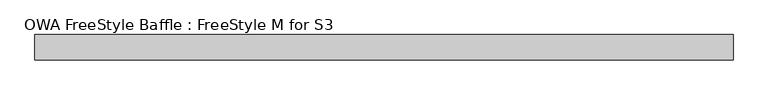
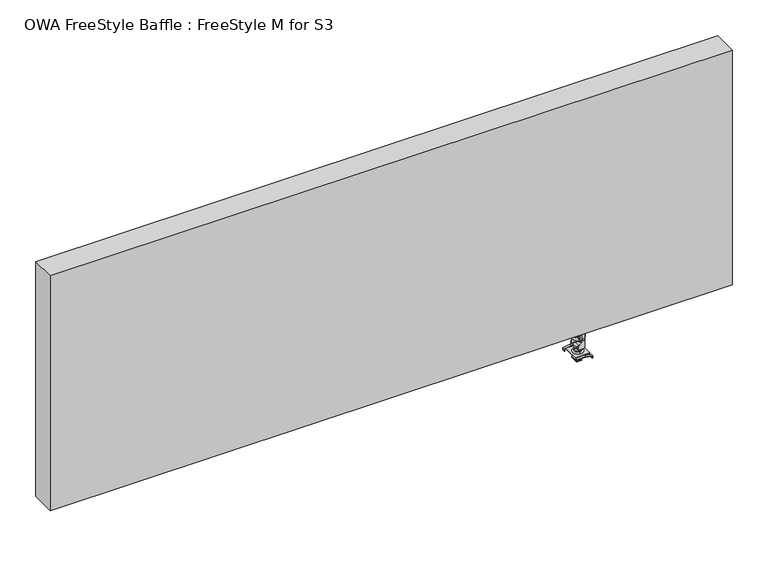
"""IFC4 building model written with IfcOpenShell, lengths in millimetres: proxy geometry, OWA FreeStyle Baffle : FreeStyle M for S3."""

import ifcopenshell
import ifcopenshell.guid

model = None  # the IFC model being written
_history = None  # IfcOwnerHistory: only IFC2X3 demands one
_inside = {}  # id of a spatial element -> (the spatial element, [elements in it])
_under = {}  # id of a project, library or spatial element -> (it, [spatial elements below it])
_declared = {}  # id of a project -> (the project, [libraries it declares])
_typed = {}  # id of a type object -> (the type object, [elements of that type])
_made_of = {}  # id of a material, layer set ... -> (it, [elements and type objects made of it])


def new_model(schema):
    """Start an empty IFC model of exactly this schema.

    Asked for "IFC4X3", IfcOpenShell would pick the latest addendum, in which some entities
    have other attributes; the version numbers below select the first issue.
    IFC2X3 requires an IfcOwnerHistory on every rooted entity: one is made here for all.
    """
    global model, _history
    if schema == "IFC4X3":
        model = ifcopenshell.file(schema_version=(4, 3, 0, 0))
    else:
        model = ifcopenshell.file(schema=schema)
    _inside.clear()
    _under.clear()
    _declared.clear()
    _typed.clear()
    _made_of.clear()
    _history = None
    if model.schema == "IFC2X3":
        org = make("IfcOrganization", Name="unknown")
        user = make(
            "IfcPersonAndOrganization",
            ThePerson=make("IfcPerson", FamilyName="unknown"),
            TheOrganization=org,
        )
        app = make(
            "IfcApplication",
            ApplicationDeveloper=org,
            Version="unknown",
            ApplicationFullName="unknown",
            ApplicationIdentifier="unknown",
        )
        _history = make(
            "IfcOwnerHistory",
            OwningUser=user,
            OwningApplication=app,
            ChangeAction="ADDED",
            CreationDate=0,
        )
    return model


def make(cls, **values):
    """One entity of the class cls with the attributes given. An attribute that is None is left unset."""
    return model.create_entity(
        cls, **{name: value for name, value in values.items() if value is not None}
    )


def rooted(cls, **values):
    """An entity with a GlobalId (a new one), such as an element, a storey or a relation."""
    return make(cls, GlobalId=ifcopenshell.guid.new(), OwnerHistory=_history, **values)


def si_unit(unit_type, name, prefix=None):
    """IfcSIUnit, for example si_unit("LENGTHUNIT", "METRE", prefix="MILLI")."""
    return make("IfcSIUnit", UnitType=unit_type, Prefix=prefix, Name=name)


def assignment(units):
    """IfcUnitAssignment: the units of a project."""
    return None if units is None else make("IfcUnitAssignment", Units=units)


def point(xyz):
    """IfcCartesianPoint."""
    return None if xyz is None else make("IfcCartesianPoint", Coordinates=xyz)


def direction(xyz):
    """IfcDirection."""
    return None if xyz is None else make("IfcDirection", DirectionRatios=xyz)


def frame(location, z_axis=None, x_axis=None):
    """IfcAxis2Placement3D, a coordinate frame: its origin and axes. An axis left out is left unset."""
    return make(
        "IfcAxis2Placement3D",
        Location=point(location),
        Axis=direction(z_axis),
        RefDirection=direction(x_axis),
    )


def frame_2d(location, x_axis=None):
    """IfcAxis2Placement2D, a coordinate frame in the plane: its origin and x axis."""
    return make(
        "IfcAxis2Placement2D", Location=point(location), RefDirection=direction(x_axis)
    )


def origin():
    """The frame at (0, 0, 0) with its axes left unset."""
    return frame((0.0, 0.0, 0.0))


def place(relative_to, where):
    """IfcLocalPlacement: puts the frame where relative to a parent placement (None: the world)."""
    return make(
        "IfcLocalPlacement", PlacementRelTo=relative_to, RelativePlacement=where
    )


def context(
    kind, dimensions, precision=None, world=None, true_north=None, identifier=None
):
    """IfcGeometricRepresentationContext, for example the 3D "Model" context."""
    return make(
        "IfcGeometricRepresentationContext",
        ContextIdentifier=identifier,
        ContextType=kind,
        CoordinateSpaceDimension=dimensions,
        Precision=precision,
        WorldCoordinateSystem=world,
        TrueNorth=true_north,
    )


def project(units=None, contexts=None):
    """IfcProject with its units and contexts."""
    return rooted(
        "IfcProject",
        Name="project",
        RepresentationContexts=contexts,
        UnitsInContext=assignment(units),
    )


def spatial(cls, under=None, at=None, **own):
    """A site, building, storey or space (cls), placed at a placement, below another one or the project."""
    s = rooted(cls, ObjectPlacement=at, **own)
    if under is not None:
        _under.setdefault(under.id(), (under, []))[1].append(s)
    return s


def polyline(points):
    """IfcPolyline through the points."""
    return make("IfcPolyline", Points=[point(p) for p in points])


def circle_curve(where, radius):
    """IfcCircle in the frame where."""
    return make("IfcCircle", Position=where, Radius=radius)


def trimmed(basis, trim1, trim2, sense, master):
    """IfcTrimmedCurve: the piece of a basis curve between two trims."""
    return make(
        "IfcTrimmedCurve",
        BasisCurve=basis,
        Trim1=trim1,
        Trim2=trim2,
        SenseAgreement=sense,
        MasterRepresentation=master,
    )


def segment(curve, same_sense, transition):
    """IfcCompositeCurveSegment."""
    return make(
        "IfcCompositeCurveSegment",
        Transition=transition,
        SameSense=same_sense,
        ParentCurve=curve,
    )


def composite_curve(segments, self_intersect=None):
    """IfcCompositeCurve: segments joined end to end."""
    return make("IfcCompositeCurve", Segments=segments, SelfIntersect=self_intersect)


def outline(outer, holes=None, kind="AREA"):
    """IfcArbitraryClosedProfileDef: a profile drawn as a closed curve; with holes, ...WithVoids."""
    if holes is None:
        return make("IfcArbitraryClosedProfileDef", ProfileType=kind, OuterCurve=outer)
    return make(
        "IfcArbitraryProfileDefWithVoids",
        ProfileType=kind,
        OuterCurve=outer,
        InnerCurves=holes,
    )


def extrude(swept, where, along, depth):
    """IfcExtrudedAreaSolid: the profile swept, set in the frame where, extruded along a direction by depth."""
    return make(
        "IfcExtrudedAreaSolid",
        SweptArea=swept,
        Position=where,
        ExtrudedDirection=direction(along),
        Depth=depth,
    )


def shape(context_of_items, identifier, shape_type, items):
    """IfcShapeRepresentation: the items that make up one representation, for example the "Body"."""
    return make(
        "IfcShapeRepresentation",
        ContextOfItems=context_of_items,
        RepresentationIdentifier=identifier,
        RepresentationType=shape_type,
        Items=items,
    )


def source(mapping_origin, context_of_items, identifier, shape_type, items):
    """IfcRepresentationMap: a shape defined once, which mapped items show again and again."""
    return make(
        "IfcRepresentationMap",
        MappingOrigin=mapping_origin,
        MappedRepresentation=shape(context_of_items, identifier, shape_type, items),
    )


def transform(
    local_origin,
    x_axis=None,
    y_axis=None,
    z_axis=None,
    scale=None,
    scale2=None,
    scale3=None,
    uniform=True,
):
    """IfcCartesianTransformationOperator3D, or its non-uniform kind. x_axis, y_axis, z_axis: its Axis1, 2, 3."""
    if uniform:
        return make(
            "IfcCartesianTransformationOperator3D",
            Axis1=direction(x_axis),
            Axis2=direction(y_axis),
            LocalOrigin=point(local_origin),
            Scale=scale,
            Axis3=direction(z_axis),
        )
    return make(
        "IfcCartesianTransformationOperator3DnonUniform",
        Axis1=direction(x_axis),
        Axis2=direction(y_axis),
        LocalOrigin=point(local_origin),
        Scale=scale,
        Axis3=direction(z_axis),
        Scale2=scale2,
        Scale3=scale3,
    )


def mapped(mapping_source, mapping_target):
    """IfcMappedItem: shows the shape of a source again, moved by a transform."""
    return make(
        "IfcMappedItem", MappingSource=mapping_source, MappingTarget=mapping_target
    )


def made_of(thing, what):
    """Note that an element or type object is made of a material, layer set ...; save() writes the relation."""
    if what is not None:
        _made_of.setdefault(what.id(), (what, []))[1].append(thing)
    return thing


def element(
    cls,
    number,
    at=None,
    inside=None,
    cuts=None,
    type_object=None,
    material=None,
    context=None,
    identifier="Body",
    shape_type=None,
    held_by="IfcProductDefinitionShape",
    body=None,
    shapes=None,
    **own,
):
    """One element of the class cls, such as IfcWall. Its Tag is "e" and its number.

    at: its placement. inside: the storey or other place that contains it. cuts: it is an
    opening in that element (IfcRelVoidsElement). A single representation is given by context,
    identifier, shape_type and body (its items); several are given by shapes. held_by: the class
    of the entity that holds the representations. save() writes the other relations.
    """
    e = rooted(cls, Tag="e%d" % number, ObjectPlacement=at, **own)
    if body is not None:
        shapes = [shape(context, identifier, shape_type, body)]
    if shapes is not None:
        e.Representation = make(held_by, Representations=shapes)
    if inside is not None:
        _inside.setdefault(inside.id(), (inside, []))[1].append(e)
    if cuts is not None:
        rooted(
            "IfcRelVoidsElement", RelatingBuildingElement=cuts, RelatedOpeningElement=e
        )
    if type_object is not None:
        _typed.setdefault(type_object.id(), (type_object, []))[1].append(e)
    return made_of(e, material)


def aggregate(whole, parts):
    """IfcRelAggregates: a whole, such as a stair, and the parts it consists of."""
    return rooted("IfcRelAggregates", RelatingObject=whole, RelatedObjects=parts)


def save(model, path):
    """Write the relations noted so far, then the file.

    IfcRelAggregates (storeys below a building ...), IfcRelContainedInSpatialStructure (elements
    in a storey), IfcRelDefinesByType, IfcRelAssociatesMaterial and IfcRelDeclares: one each for
    every whole, place, type object, material and project.
    """
    for whole, parts in _under.values():
        aggregate(whole, parts)
    for where, things in _inside.values():
        rooted(
            "IfcRelContainedInSpatialStructure",
            RelatedElements=things,
            RelatingStructure=where,
        )
    for kind, things in _typed.values():
        rooted("IfcRelDefinesByType", RelatedObjects=things, RelatingType=kind)
    for what, things in _made_of.values():
        rooted("IfcRelAssociatesMaterial", RelatedObjects=things, RelatingMaterial=what)
    for by, libraries in _declared.values():
        rooted("IfcRelDeclares", RelatingContext=by, RelatedDefinitions=libraries)
    model.write(path)


def plane_surface(at):
    """IfcPlane: the flat surface through the origin of the frame at, square to its z axis."""
    return make("IfcPlane", Position=at)


def cylinder_surface(at, radius):
    """IfcCylindricalSurface: all points at the distance radius from the z axis of the frame at."""
    return make("IfcCylindricalSurface", Position=at, Radius=radius)


def revolved_surface(curve, axis_point, axis_direction):
    """IfcSurfaceOfRevolution: the curve turned about the line through axis_point along axis_direction."""
    return make(
        "IfcSurfaceOfRevolution",
        SweptCurve=make("IfcArbitraryOpenProfileDef", ProfileType="CURVE", Curve=curve),
        AxisPosition=make("IfcAxis1Placement", Location=point(axis_point), Axis=direction(axis_direction)),
    )


def advanced_brep(points, edges, surfaces, faces):
    """IfcAdvancedBrep: a solid bounded by faces that lie on surfaces and meet in shared edges.

    An edge is (start, end): straight between two places in points (the first is 0);
    or (start, end, curve); or (start, end, curve, False) where it runs against its curve.
    A face is (place in surfaces, loops), or (place, loops, False) where it looks against
    its surface's normal. A loop lists edges by number (the first is 1), with a minus sign
    where the edge is run from its end to its start. The first loop is the outer one.
    """
    corners = [point(p) for p in points]
    vertices = [make("IfcVertexPoint", VertexGeometry=c) for c in corners]
    made = []
    for start, end, *more in edges:
        made.append(
            make(
                "IfcEdgeCurve",
                EdgeStart=vertices[start],
                EdgeEnd=vertices[end],
                EdgeGeometry=more[0] if more else make("IfcPolyline", Points=[corners[start], corners[end]]),
                SameSense=more[1] if len(more) > 1 else True,
            )
        )
    hull = []
    for where, loops, *sense in faces:
        bounds = []
        for j, loop in enumerate(loops):
            ring = [make("IfcOrientedEdge", EdgeElement=made[abs(k) - 1], Orientation=k > 0) for k in loop]
            bounds.append(
                make(
                    "IfcFaceOuterBound" if j == 0 else "IfcFaceBound",
                    Bound=make("IfcEdgeLoop", EdgeList=ring),
                    Orientation=True,
                )
            )
        hull.append(make("IfcAdvancedFace", Bounds=bounds, FaceSurface=surfaces[where], SameSense=sense[0] if sense else True))
    return make("IfcAdvancedBrep", Outer=make("IfcClosedShell", CfsFaces=hull))


def owa_freestyle_baffle_freestyle_m_for_s3_c351b4da(model_context):
    return source(origin(), model_context, "Body", "SolidModel", [
        advanced_brep(
        [(-121.0, 8.4415003, 1.5898642), (-121.0, -8.4415003, 1.5898642), (-121.0, 0.0, 1.5898642), (-121.0, 6.3209107, 2.7955065), (-121.0, -6.3209107, 2.7955065), (-121.0, 4.2468376, 2.7955065), (-121.0, -4.2468376, 2.7955065), (-121.0, 4.2468376, 7.2398642), (-121.0, -4.2468376, 7.2398642), (-121.0, 5.0073658, 8.5775481), (-121.0, -5.0073658, 8.5775481), (-121.0, 5.0073658, 9.7898642), (-121.0, -5.0073658, 9.7898642), (-121.0, 6.1718376, 12.0898642), (-121.0, -6.1718376, 12.0898642), (-121.0, -6.1718376, 10.5898642), (-116.231961, -3.9188497, 10.5898642), (-116.231961, -3.9188497, 9.7898642), (-116.231961, 3.9188497, 9.7898642), (-116.231961, 3.9188497, 10.5898642), (-121.0, 6.1718376, 10.5898642), (-125.9436106, 3.6949009, 10.5898642), (-125.9436106, 3.6949009, 9.7898642), (-125.9436106, -3.6949009, 9.7898642), (-125.9436106, -3.6949009, 10.5898642), (-121.0, 0.0, 12.0898642), (-115.5, -10.0577889, 28.4358156), (-118.4062575, -10.0577889, 33.2858156), (-123.5, -10.0577889, 33.2858156), (-123.5, -10.0577889, 27.4015303), (-123.5, -10.0577889, 31.007432), (-118.5, -10.0577889, 31.007432), (-118.5, -10.0577889, 23.6176887), (-119.22243, -10.0577889, 21.8597795), (-123.4531897, -10.0577889, 17.5817021), (-126.4322178, -10.0577889, 13.1149322), (-125.9436106, -10.0577889, 10.5898642), (-125.9436106, -10.0577889, 9.7898642), (-116.231961, -10.0577889, 9.7898642), (-116.231961, -10.0577889, 10.5898642), (-115.5, -10.0577889, 13.1149322), (-115.5, -9.2577889, 28.4358156), (-115.5, -9.2577889, 13.1149322), (-116.231961, -9.2577889, 10.5898642), (-125.9436106, -9.2577889, 10.5898642), (-126.4322178, -9.2577889, 13.1149322), (-123.4531897, -9.2577889, 17.5817021), (-119.22243, -9.2577889, 21.8597795), (-118.5, -9.2577889, 23.6176887), (-118.5, -9.2577889, 31.007432), (-123.5, -9.2577889, 31.007432), (-123.5, -9.2577889, 27.4015303), (-123.5, -9.2577889, 33.2858156), (-118.4062575, -9.2577889, 33.2858156), (-116.231961, 9.2577889, 10.5898642), (-125.9436106, 9.2577889, 10.5898642), (-125.9436106, 10.0577889, 9.7898642), (-116.231961, 10.0577889, 9.7898642), (-125.9436106, 10.0577889, 10.5898642), (-126.4322178, 10.0577889, 13.1149322), (-123.4531897, 10.0577889, 17.5817021), (-119.22243, 10.0577889, 21.8597795), (-118.5, 10.0577889, 23.6176887), (-118.5, 10.0577889, 31.007432), (-123.5, 10.0577889, 31.007432), (-123.5, 10.0577889, 27.4015303), (-123.5, 10.0577889, 33.2858156), (-118.4062575, 10.0577889, 33.2858156), (-115.5, 10.0577889, 28.4358156), (-115.5, 10.0577889, 13.1149322), (-116.231961, 10.0577889, 10.5898642), (-115.5, 9.2577889, 28.4358156), (-118.4062575, 9.2577889, 33.2858156), (-123.5, 9.2577889, 33.2858156), (-123.5, 9.2577889, 27.4015303), (-123.5, 9.2577889, 31.007432), (-118.5, 9.2577889, 31.007432), (-118.5, 9.2577889, 23.6176887), (-119.22243, 9.2577889, 21.8597795), (-123.4531897, 9.2577889, 17.5817021), (-126.4322178, 9.2577889, 13.1149322), (-115.5, 9.2577889, 13.1149322)],
        [
            (0, 1, circle_curve(frame((-121.0, 0.0, 1.5898642), z_axis=(0.0, 0.0, -1.0), x_axis=(0.0, -1.0, 0.0)), 8.4415003)),
            (1, 2),
            (2, 0),
            (1, 0, circle_curve(frame((-121.0, 0.0, 1.5898642), z_axis=(0.0, 0.0, -1.0), x_axis=(0.0, -1.0, 0.0)), 8.4415003)),
            (0, 3),
            (3, 4, circle_curve(frame((-121.0, 0.0, 2.7955065), z_axis=(0.0, 0.0, -1.0), x_axis=(0.0, -1.0, 0.0)), 6.3209107)),
            (4, 1),
            (4, 3, circle_curve(frame((-121.0, 0.0, 2.7955065), z_axis=(0.0, 0.0, -1.0), x_axis=(0.0, -1.0, 0.0)), 6.3209107)),
            (3, 5),
            (5, 6, circle_curve(frame((-121.0, 0.0, 2.7955065), z_axis=(0.0, 0.0, -1.0), x_axis=(0.0, -1.0, 0.0)), 4.2468376)),
            (6, 4),
            (6, 5, circle_curve(frame((-121.0, 0.0, 2.7955065), z_axis=(0.0, 0.0, -1.0), x_axis=(0.0, -1.0, 0.0)), 4.2468376)),
            (5, 7),
            (7, 8, circle_curve(frame((-121.0, 0.0, 7.2398642), z_axis=(0.0, 0.0, -1.0), x_axis=(0.0, -1.0, 0.0)), 4.2468376)),
            (8, 6),
            (8, 7, circle_curve(frame((-121.0, 0.0, 7.2398642), z_axis=(0.0, 0.0, -1.0), x_axis=(0.0, -1.0, 0.0)), 4.2468376)),
            (7, 9),
            (9, 10, circle_curve(frame((-121.0, 0.0, 8.5775481), z_axis=(0.0, 0.0, -1.0), x_axis=(0.0, -1.0, 0.0)), 5.0073658)),
            (10, 8),
            (10, 9, circle_curve(frame((-121.0, 0.0, 8.5775481), z_axis=(0.0, 0.0, -1.0), x_axis=(0.0, -1.0, 0.0)), 5.0073658)),
            (9, 11),
            (11, 12, circle_curve(frame((-121.0, 0.0, 9.7898642), z_axis=(0.0, 0.0, -1.0), x_axis=(0.0, -1.0, 0.0)), 5.0073658)),
            (12, 10),
            (12, 11, circle_curve(frame((-121.0, 0.0, 9.7898642), z_axis=(0.0, 0.0, -1.0), x_axis=(0.0, -1.0, 0.0)), 5.0073658)),
            (13, 14, circle_curve(frame((-121.0, 0.0, 12.0898642), z_axis=(0.0, 0.0, -1.0), x_axis=(0.0, -1.0, 0.0)), 6.1718376)),
            (14, 15),
            (15, 16, circle_curve(frame((-121.0, 0.0, 10.5898642), z_axis=(0.0, 0.0, 1.0), x_axis=(0.0, -1.0, 0.0)), 6.1718376)),
            (16, 17),
            (17, 18, circle_curve(frame((-121.0, 0.0, 9.7898642), z_axis=(0.0, 0.0, 1.0), x_axis=(0.0, -1.0, 0.0)), 6.1718376)),
            (18, 19),
            (19, 20, circle_curve(frame((-121.0, 0.0, 10.5898642), z_axis=(0.0, 0.0, 1.0), x_axis=(0.0, -1.0, 0.0)), 6.1718376)),
            (20, 13),
            (14, 13, circle_curve(frame((-121.0, 0.0, 12.0898642), z_axis=(0.0, 0.0, -1.0), x_axis=(0.0, -1.0, 0.0)), 6.1718376)),
            (20, 21, circle_curve(frame((-121.0, 0.0, 10.5898642), z_axis=(0.0, 0.0, 1.0), x_axis=(0.0, -1.0, 0.0)), 6.1718376)),
            (21, 22),
            (22, 23, circle_curve(frame((-121.0, 0.0, 9.7898642), z_axis=(0.0, 0.0, 1.0), x_axis=(0.0, -1.0, 0.0)), 6.1718376)),
            (23, 24),
            (24, 15, circle_curve(frame((-121.0, 0.0, 10.5898642), z_axis=(0.0, 0.0, 1.0), x_axis=(0.0, -1.0, 0.0)), 6.1718376)),
            (13, 25),
            (25, 14),
            (26, 27, circle_curve(frame((-121.0, -10.0577889, 28.4358156), z_axis=(0.0, -1.0, 0.0), x_axis=(0.0, 0.0, 1.0)), 5.5)),
            (27, 28),
            (28, 29, circle_curve(frame((-122.4794267, -10.0577889, 30.343673), z_axis=(0.0, -1.0, 0.0), x_axis=(0.0, 0.0, 1.0)), 3.1141248)),
            (29, 30),
            (30, 31),
            (31, 32),
            (32, 33, circle_curve(frame((-121.0, -10.0577889, 23.6176887), z_axis=(0.0, 1.0, 0.0), x_axis=(0.0, 0.0, 1.0)), 2.5)),
            (33, 34),
            (34, 35, circle_curve(frame((-113.4323663, -10.0577889, 7.6717141), z_axis=(0.0, -1.0, 0.0), x_axis=(0.0, 0.0, 1.0)), 14.0934298)),
            (35, 36, circle_curve(frame((-124.2927664, -10.0577889, 12.2191142), z_axis=(0.0, -1.0, 0.0), x_axis=(0.0, 0.0, 1.0)), 2.3194271)),
            (36, 37),
            (37, 38),
            (38, 39),
            (39, 40, circle_curve(frame((-120.221382, -10.0577889, 13.1149322), z_axis=(0.0, -1.0, 0.0), x_axis=(0.0, 0.0, 1.0)), 4.721382)),
            (40, 26),
            (41, 42),
            (42, 43, circle_curve(frame((-120.221382, -9.2577889, 13.1149322), z_axis=(0.0, 1.0, 0.0), x_axis=(0.0, 0.0, 1.0)), 4.721382)),
            (43, 44),
            (44, 45, circle_curve(frame((-124.2927664, -9.2577889, 12.2191142), z_axis=(0.0, 1.0, 0.0), x_axis=(0.0, 0.0, 1.0)), 2.3194271)),
            (45, 46, circle_curve(frame((-113.4323663, -9.2577889, 7.6717141), z_axis=(0.0, 1.0, 0.0), x_axis=(0.0, 0.0, 1.0)), 14.0934298)),
            (46, 47),
            (47, 48, circle_curve(frame((-121.0, -9.2577889, 23.6176887), z_axis=(0.0, -1.0, 0.0), x_axis=(0.0, 0.0, 1.0)), 2.5)),
            (48, 49),
            (49, 50),
            (50, 51),
            (51, 52, circle_curve(frame((-122.4794267, -9.2577889, 30.343673), z_axis=(0.0, 1.0, 0.0), x_axis=(0.0, 0.0, 1.0)), 3.1141248)),
            (52, 53),
            (53, 41, circle_curve(frame((-121.0, -9.2577889, 28.4358156), z_axis=(0.0, 1.0, 0.0), x_axis=(0.0, 0.0, 1.0)), 5.5)),
            (26, 41),
            (53, 27),
            (52, 28),
            (51, 29),
            (50, 30),
            (49, 31),
            (33, 47),
            (46, 34),
            (45, 35),
            (44, 36),
            (39, 43),
            (42, 40),
            (32, 48),
            (43, 16),
            (24, 44),
            (54, 55),
            (55, 21),
            (19, 54),
            (56, 57),
            (57, 18),
            (17, 38),
            (37, 23),
            (22, 56),
            (58, 56),
            (55, 58),
            (58, 59, circle_curve(frame((-124.2927664, 10.0577889, 12.2191142), z_axis=(0.0, 1.0, 0.0), x_axis=(0.0, 0.0, 1.0)), 2.3194271)),
            (59, 60, circle_curve(frame((-113.4323663, 10.0577889, 7.6717141), z_axis=(0.0, 1.0, 0.0), x_axis=(0.0, 0.0, 1.0)), 14.0934298)),
            (60, 61),
            (61, 62, circle_curve(frame((-121.0, 10.0577889, 23.6176887), z_axis=(0.0, -1.0, 0.0), x_axis=(0.0, 0.0, 1.0)), 2.5)),
            (62, 63),
            (63, 64),
            (64, 65),
            (65, 66, circle_curve(frame((-122.4794267, 10.0577889, 30.343673), z_axis=(0.0, 1.0, 0.0), x_axis=(0.0, 0.0, 1.0)), 3.1141248)),
            (66, 67),
            (67, 68, circle_curve(frame((-121.0, 10.0577889, 28.4358156), z_axis=(0.0, 1.0, 0.0), x_axis=(0.0, 0.0, 1.0)), 5.5)),
            (68, 69),
            (69, 70, circle_curve(frame((-120.221382, 10.0577889, 13.1149322), z_axis=(0.0, 1.0, 0.0), x_axis=(0.0, 0.0, 1.0)), 4.721382)),
            (70, 57),
            (70, 54),
            (71, 72, circle_curve(frame((-121.0, 9.2577889, 28.4358156), z_axis=(0.0, -1.0, 0.0), x_axis=(0.0, 0.0, 1.0)), 5.5)),
            (72, 73),
            (73, 74, circle_curve(frame((-122.4794267, 9.2577889, 30.343673), z_axis=(0.0, -1.0, 0.0), x_axis=(0.0, 0.0, 1.0)), 3.1141248)),
            (74, 75),
            (75, 76),
            (76, 77),
            (77, 78, circle_curve(frame((-121.0, 9.2577889, 23.6176887), z_axis=(0.0, 1.0, 0.0), x_axis=(0.0, 0.0, 1.0)), 2.5)),
            (78, 79),
            (79, 80, circle_curve(frame((-113.4323663, 9.2577889, 7.6717141), z_axis=(0.0, -1.0, 0.0), x_axis=(0.0, 0.0, 1.0)), 14.0934298)),
            (80, 55, circle_curve(frame((-124.2927664, 9.2577889, 12.2191142), z_axis=(0.0, -1.0, 0.0), x_axis=(0.0, 0.0, 1.0)), 2.3194271)),
            (54, 81, circle_curve(frame((-120.221382, 9.2577889, 13.1149322), z_axis=(0.0, -1.0, 0.0), x_axis=(0.0, 0.0, 1.0)), 4.721382)),
            (81, 71),
            (67, 72),
            (71, 68),
            (66, 73),
            (65, 74),
            (64, 75),
            (63, 76),
            (60, 79),
            (78, 61),
            (59, 80),
            (69, 81),
            (77, 62),
        ],
        [
            plane_surface(frame((-121.0, 0.0, 1.5898642), z_axis=(0.0, 0.0, -1.0), x_axis=(0.0, -1.0, 0.0))),
            revolved_surface(polyline([(-121.0, -8.4415003, 1.5898642), (-121.0, -6.3209107, 2.7955065)]), (-121.0, 0.0, -2.0962775), (0.0, 0.0, 1.0)),
            plane_surface(frame((-121.0, 0.0, 2.7955065), z_axis=(0.0, 0.0, 1.0), x_axis=(0.0, -1.0, 0.0))),
            cylinder_surface(frame((-121.0, 0.0, -2.0962775), z_axis=(0.0, 0.0, 1.0), x_axis=(0.0, -1.0, 0.0)), 4.2468376),
            revolved_surface(polyline([(-121.0, -4.2468376, 7.2398642), (-121.0, -5.0073658, 8.5775481)]), (-121.0, 0.0, -2.0962775), (0.0, 0.0, 1.0)),
            cylinder_surface(frame((-121.0, 0.0, -2.0962775), z_axis=(0.0, 0.0, 1.0), x_axis=(0.0, -1.0, 0.0)), 5.0073658),
            cylinder_surface(frame((-121.0, 0.0, -2.0962775), z_axis=(0.0, 0.0, 1.0), x_axis=(0.0, -1.0, 0.0)), 6.1718376),
            plane_surface(frame((-121.0, 0.0, 12.0898642), z_axis=(0.0, 0.0, 1.0), x_axis=(0.0, -1.0, 0.0))),
            plane_surface(frame((-115.5, -10.0577889, 13.1149322), z_axis=(0.0, -1.0, 0.0), x_axis=(0.0, 0.0, 1.0))),
            plane_surface(frame((-115.5, -9.2577889, 13.1149322), z_axis=(0.0, 1.0, 0.0), x_axis=(0.0, 0.0, -1.0))),
            cylinder_surface(frame((-121.0, -10.0577889, 28.4358156), z_axis=(0.0, 1.0, 0.0), x_axis=(0.0, 0.0, 1.0)), 5.5),
            plane_surface(frame((-123.5, -9.2577889, 33.2858156), z_axis=(0.0, 0.0, 1.0), x_axis=(0.0, -1.0, 0.0))),
            cylinder_surface(frame((-122.4794267, -10.0577889, 30.343673), z_axis=(0.0, 1.0, 0.0), x_axis=(0.0, 0.0, 1.0)), 3.1141248),
            plane_surface(frame((-123.5, -9.2577889, 31.007432), z_axis=(1.0, 0.0, 0.0), x_axis=(0.0, -1.0, 0.0))),
            plane_surface(frame((-118.5, -9.2577889, 31.007432), z_axis=(0.0, 0.0, -1.0), x_axis=(0.0, -1.0, 0.0))),
            plane_surface(frame((-123.4531897, -9.2577889, 17.5817021), z_axis=(-0.7110280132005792, 0.0, 0.7031636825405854), x_axis=(0.0, -1.0, 0.0))),
            cylinder_surface(frame((-113.4323663, -10.0577889, 7.6717141), z_axis=(0.0, 1.0, 0.0), x_axis=(0.0, 0.0, 1.0)), 14.0934298),
            cylinder_surface(frame((-124.2927664, -10.0577889, 12.2191142), z_axis=(0.0, 1.0, 0.0), x_axis=(0.0, 0.0, 1.0)), 2.3194271),
            cylinder_surface(frame((-120.221382, -10.0577889, 13.1149322), z_axis=(0.0, 1.0, 0.0), x_axis=(0.0, 0.0, 1.0)), 4.721382),
            plane_surface(frame((-115.5, -9.2577889, 28.4358156), z_axis=(1.0, 0.0, 0.0), x_axis=(0.0, -1.0, 0.0))),
            revolved_surface(polyline([(-121.0, -10.0577889, 26.1176887), (-121.0, -9.2577889, 26.1176887)]), (-121.0, -10.0577889, 23.6176887), (0.0, -1.0, 0.0)),
            plane_surface(frame((-118.5, -9.2577889, 23.6176887), z_axis=(-1.0, 0.0, 0.0), x_axis=(0.0, -1.0, 0.0))),
            plane_surface(frame((-125.9436106, -9.2577889, 10.5898642), z_axis=(0.0, 0.0, 1.0), x_axis=(0.0, -1.0, 0.0))),
            plane_surface(frame((-125.9436106, -9.2577889, 9.7898642), z_axis=(0.0, 0.0, -1.0), x_axis=(0.0, 1.0, 0.0))),
            plane_surface(frame((-125.9436106, -10.0577889, 9.7898642), z_axis=(-1.0, 0.0, 0.0), x_axis=(0.0, 0.0, 1.0))),
            plane_surface(frame((-125.9436106, 10.0577889, 9.7898642), z_axis=(0.0, 1.0, 0.0), x_axis=(0.0, 0.0, 1.0))),
            plane_surface(frame((-116.231961, 10.0577889, 9.7898642), z_axis=(1.0, 0.0, 0.0), x_axis=(0.0, 0.0, 1.0))),
            plane_surface(frame((-121.0, 9.2577889, 33.9358156), z_axis=(0.0, -1.0, 0.0), x_axis=(-1.0, 0.0, 0.0))),
            cylinder_surface(frame((-121.0, 10.0577889, 28.4358156), z_axis=(0.0, -1.0, 0.0), x_axis=(0.0, 0.0, 1.0)), 5.5),
            plane_surface(frame((-118.4062575, 9.2577889, 33.2858156), z_axis=(0.0, 0.0, 1.0), x_axis=(0.0, 1.0, 0.0))),
            cylinder_surface(frame((-122.4794267, 10.0577889, 30.343673), z_axis=(0.0, -1.0, 0.0), x_axis=(0.0, 0.0, 1.0)), 3.1141248),
            plane_surface(frame((-123.5, 9.2577889, 27.4015303), z_axis=(1.0, 0.0, 0.0), x_axis=(0.0, 1.0, 0.0))),
            plane_surface(frame((-123.5, 9.2577889, 31.007432), z_axis=(0.0, 0.0, -1.0), x_axis=(0.0, 1.0, 0.0))),
            plane_surface(frame((-119.22243, 9.2577889, 21.8597795), z_axis=(-0.7110280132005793, 0.0, 0.7031636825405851), x_axis=(0.0, 1.0, 0.0))),
            cylinder_surface(frame((-113.4323663, 10.0577889, 7.6717141), z_axis=(0.0, -1.0, 0.0), x_axis=(0.0, 0.0, 1.0)), 14.0934298),
            cylinder_surface(frame((-124.2927664, 10.0577889, 12.2191142), z_axis=(0.0, -1.0, 0.0), x_axis=(0.0, 0.0, 1.0)), 2.3194271),
            cylinder_surface(frame((-120.221382, 10.0577889, 13.1149322), z_axis=(0.0, -1.0, 0.0), x_axis=(0.0, 0.0, 1.0)), 4.721382),
            plane_surface(frame((-115.5, 9.2577889, 13.1149322), z_axis=(1.0, 0.0, 0.0), x_axis=(0.0, 1.0, 0.0))),
            revolved_surface(polyline([(-121.0, 10.0577889, 26.1176887), (-121.0, 9.2577889, 26.1176887)]), (-121.0, 10.0577889, 23.6176887), (0.0, 1.0, 0.0)),
            plane_surface(frame((-118.5, 9.2577889, 31.007432), z_axis=(-1.0, 0.0, 0.0), x_axis=(0.0, 1.0, 0.0))),
        ],
        [
            (0, [[1, 2, 3]]),
            (0, [[-2, 4, -3]]),
            (1, [[-1, 5, 6, 7]]),
            (1, [[-4, -7, 8, -5]]),
            (2, [[-6, 9, 10, 11]]),
            (2, [[-8, -11, 12, -9]]),
            (3, [[-10, 13, 14, 15]]),
            (3, [[-12, -15, 16, -13]]),
            (4, [[-14, 17, 18, 19]]),
            (4, [[-16, -19, 20, -17]]),
            (5, [[-18, 21, 22, 23]]),
            (5, [[-20, -23, 24, -21]]),
            (6, [[25, 26, 27, 28, 29, 30, 31, 32]]),
            (6, [[33, -32, 34, 35, 36, 37, 38, -26]]),
            (7, [[-25, 39, 40]]),
            (7, [[-33, -40, -39]]),
            (8, [[41, 42, 43, 44, 45, 46, 47, 48, 49, 50, 51, 52, 53, 54, 55]]),
            (9, [[56, 57, 58, 59, 60, 61, 62, 63, 64, 65, 66, 67, 68]]),
            (10, [[-41, 69, -68, 70]]),
            (11, [[-42, -70, -67, 71]]),
            (12, [[-43, -71, -66, 72]]),
            (13, [[-44, -72, -65, 73]]),
            (14, [[-45, -73, -64, 74]]),
            (15, [[-48, 75, -61, 76]]),
            (16, [[-49, -76, -60, 77]]),
            (17, [[-50, -77, -59, 78]]),
            (18, [[-54, 79, -57, 80]]),
            (19, [[-55, -80, -56, -69]]),
            (20, [[-47, 81, -62, -75]]),
            (21, [[-46, -74, -63, -81]]),
            (22, [[-58, 82, -27, -38, 83]]),
            (22, [[84, 85, -34, -31, 86]]),
            (23, [[87, 88, -29, 89, -52, 90, -36, 91], [-24, -22]]),
            (24, [[-51, -78, -83, -37, -90]]),
            (24, [[92, -91, -35, -85, 93]]),
            (25, [[-87, -92, 94, 95, 96, 97, 98, 99, 100, 101, 102, 103, 104, 105, 106]]),
            (26, [[-53, -89, -28, -82, -79]]),
            (26, [[-106, 107, -86, -30, -88]]),
            (27, [[108, 109, 110, 111, 112, 113, 114, 115, 116, 117, -84, 118, 119]]),
            (28, [[-103, 120, -108, 121]]),
            (29, [[-102, 122, -109, -120]]),
            (30, [[-101, 123, -110, -122]]),
            (31, [[-100, 124, -111, -123]]),
            (32, [[-99, 125, -112, -124]]),
            (33, [[-96, 126, -115, 127]]),
            (34, [[-95, 128, -116, -126]]),
            (35, [[-94, -93, -117, -128]]),
            (36, [[-105, 129, -118, -107]]),
            (37, [[-104, -121, -119, -129]]),
            (38, [[-97, -127, -114, 130]]),
            (39, [[-98, -130, -113, -125]]),
        ],
    ),
        advanced_brep(
        [(-125.5504372, -6.4495628, -1.2101358), (-125.5504372, -6.4495628, -2.0101358), (-132.5504372, -6.4495628, -2.0101358), (-132.5504372, -6.4495628, 1.5898642), (-132.5504372, -6.4495628, 0.7898642), (-132.5504372, -6.4495628, -1.2101358), (-132.5504372, -14.9495628, -1.2101358), (-132.5504372, -18.9495628, -1.2101358), (-125.5504372, -18.9495628, -1.2101358), (-132.5504372, -12.9495628, 0.7898642), (-132.5504372, -14.9495628, 0.7898642), (-132.5504372, -14.9495628, -2.0101358), (-132.5504372, -14.9495628, 1.5898642), (-132.5504372, -12.9495628, 1.5898642), (-125.5504372, -18.9495628, -2.0101358), (-132.5504372, -18.9495628, -2.0101358), (-109.5504372, -12.9495628, 1.5898642), (-109.5504372, 6.4495628, 1.5898642), (-109.5504372, 13.0504372, 1.5898642), (-132.5504372, 13.0504372, 1.5898642), (-132.5504372, 13.0504372, 0.7898642), (-109.5504372, 13.0504372, 0.7898642), (-109.5504372, 6.4495628, 0.7898642), (-109.5504372, -12.9495628, 0.7898642), (-132.5504372, -18.9495628, 0.7898642), (-118.9412497, -18.9495628, 0.7898642), (-108.5499325, -18.9495628, -1.0424054), (-108.5499325, -18.9495628, -4.0091992), (-107.7499325, -18.9495628, -4.0091992), (-107.7499325, -18.9495628, -0.3711257), (-118.8712588, -18.9495628, 1.5898642), (-132.5504372, -18.9495628, 1.5898642), (-118.8712588, -14.9495628, 1.5898642), (-107.7499325, -14.9495628, -0.3711257), (-107.7499325, -14.9495628, -4.0091992), (-108.5499325, -14.9495628, -4.0091992), (-108.5499325, -14.9495628, -1.0424054), (-118.9412497, -14.9495628, 0.7898642), (-116.5504372, 6.4495628, -1.2101358), (-116.5504372, 6.4495628, -2.0101358), (-109.5504372, 6.4495628, -2.0101358), (-109.5504372, 6.4495628, -1.2101358), (-109.5504372, 14.9495628, -1.2101358), (-109.5504372, 18.9495628, -1.2101358), (-116.5504372, 18.9495628, -1.2101358), (-109.5504372, 14.9495628, 0.7898642), (-109.5504372, 14.9495628, -2.0101358), (-109.5504372, 14.9495628, 1.5898642), (-116.5504372, 18.9495628, -2.0101358), (-109.5504372, 18.9495628, -2.0101358), (-109.5504372, 18.9495628, 0.7898642), (-123.1596246, 18.9495628, 0.7898642), (-133.5509418, 18.9495628, -1.0424054), (-133.5509418, 18.9495628, -4.0091992), (-134.3509418, 18.9495628, -4.0091992), (-134.3509418, 18.9495628, -0.3711257), (-123.2296155, 18.9495628, 1.5898642), (-109.5504372, 18.9495628, 1.5898642), (-123.2296155, 14.9495628, 1.5898642), (-134.3509418, 14.9495628, -0.3711257), (-134.3509418, 14.9495628, -4.0091992), (-133.5509418, 14.9495628, -4.0091992), (-133.5509418, 14.9495628, -1.0424054), (-123.1596246, 14.9495628, 0.7898642)],
        [
            (0, 1),
            (1, 2),
            (2, 3, circle_curve(frame((-132.5504372, -6.4495628, -0.2101358), z_axis=(0.0, 1.0, 0.0), x_axis=(1.0, 0.0, 0.0)), 1.8)),
            (3, 4),
            (4, 5, circle_curve(frame((-132.5504372, -6.4495628, -0.2101358), z_axis=(0.0, -1.0, 0.0), x_axis=(1.0, 0.0, 0.0)), 1.0)),
            (5, 0),
            (5, 6),
            (6, 7),
            (7, 8),
            (8, 0),
            (4, 9),
            (9, 10),
            (10, 6, circle_curve(frame((-132.5504372, -14.9495628, -0.2101358), z_axis=(0.0, -1.0, 0.0), x_axis=(1.0, 0.0, 0.0)), 1.0)),
            (2, 11),
            (11, 12, circle_curve(frame((-132.5504372, -14.9495628, -0.2101358), z_axis=(0.0, 1.0, 0.0), x_axis=(1.0, 0.0, 0.0)), 1.8)),
            (12, 13),
            (13, 3),
            (1, 14),
            (14, 15),
            (15, 11),
            (8, 14),
            (12, 10),
            (9, 13),
            (13, 16),
            (16, 17),
            (17, 18),
            (18, 19),
            (19, 3),
            (20, 21),
            (21, 22),
            (22, 23),
            (23, 9),
            (4, 20),
            (18, 21),
            (20, 19),
            (16, 23),
            (22, 17),
            (7, 24, circle_curve(frame((-132.5504372, -18.9495628, -0.2101358), z_axis=(0.0, 1.0, 0.0), x_axis=(1.0, 0.0, 0.0)), 1.0)),
            (24, 25),
            (25, 26),
            (26, 27),
            (27, 28),
            (28, 29),
            (29, 30),
            (30, 31),
            (31, 15, circle_curve(frame((-132.5504372, -18.9495628, -0.2101358), z_axis=(0.0, -1.0, 0.0), x_axis=(1.0, 0.0, 0.0)), 1.8)),
            (12, 32),
            (32, 33),
            (33, 34),
            (34, 35),
            (35, 36),
            (36, 37),
            (37, 10),
            (10, 24),
            (37, 25),
            (30, 32),
            (12, 31),
            (36, 26),
            (35, 27),
            (34, 28),
            (33, 29),
            (38, 39),
            (39, 40),
            (40, 17, circle_curve(frame((-109.5504372, 6.4495628, -0.2101358), z_axis=(0.0, -1.0, 0.0), x_axis=(-1.0, 0.0, 0.0)), 1.8)),
            (22, 41, circle_curve(frame((-109.5504372, 6.4495628, -0.2101358), z_axis=(0.0, 1.0, 0.0), x_axis=(-1.0, 0.0, 0.0)), 1.0)),
            (41, 38),
            (41, 42),
            (42, 43),
            (43, 44),
            (44, 38),
            (21, 45),
            (45, 42, circle_curve(frame((-109.5504372, 14.9495628, -0.2101358), z_axis=(0.0, 1.0, 0.0), x_axis=(-1.0, 0.0, 0.0)), 1.0)),
            (40, 46),
            (46, 47, circle_curve(frame((-109.5504372, 14.9495628, -0.2101358), z_axis=(0.0, -1.0, 0.0), x_axis=(-1.0, 0.0, 0.0)), 1.8)),
            (47, 18),
            (39, 48),
            (48, 49),
            (49, 46),
            (44, 48),
            (47, 45),
            (43, 50, circle_curve(frame((-109.5504372, 18.9495628, -0.2101358), z_axis=(0.0, -1.0, 0.0), x_axis=(-1.0, 0.0, 0.0)), 1.0)),
            (50, 51),
            (51, 52),
            (52, 53),
            (53, 54),
            (54, 55),
            (55, 56),
            (56, 57),
            (57, 49, circle_curve(frame((-109.5504372, 18.9495628, -0.2101358), z_axis=(0.0, 1.0, 0.0), x_axis=(-1.0, 0.0, 0.0)), 1.8)),
            (47, 58),
            (58, 59),
            (59, 60),
            (60, 61),
            (61, 62),
            (62, 63),
            (63, 45),
            (45, 50),
            (63, 51),
            (56, 58),
            (47, 57),
            (62, 52),
            (61, 53),
            (60, 54),
            (59, 55),
        ],
        [
            plane_surface(frame((-132.5504372, -6.4495628, -1.2101358), z_axis=(0.0, 1.0, 0.0), x_axis=(1.0, 0.0, 0.0))),
            plane_surface(frame((-125.5504372, -14.9495628, -1.2101358), z_axis=(0.0, 0.0, 1.0), x_axis=(0.0, 1.0, 0.0))),
            revolved_surface(polyline([(-131.5504372, -6.4495628, -0.2101358), (-131.5504372, -14.949562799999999, -0.2101358)]), (-132.5504372, -6.4495628, -0.2101358), (0.0, 1.0, 0.0)),
            cylinder_surface(frame((-132.5504372, -6.4495628, -0.2101358), z_axis=(0.0, -1.0, 0.0), x_axis=(1.0, 0.0, 0.0)), 1.8),
            plane_surface(frame((-132.5504372, -14.9495628, -2.0101358), z_axis=(0.0, 0.0, -1.0), x_axis=(0.0, 1.0, 0.0))),
            plane_surface(frame((-125.5504372, -14.9495628, -2.0101358), z_axis=(1.0, 0.0, 0.0), x_axis=(0.0, 1.0, 0.0))),
            plane_surface(frame((-132.5504372, -14.9495628, 0.7898642), z_axis=(1.0, 0.0, 0.0), x_axis=(0.0, 1.0, 0.0))),
            plane_surface(frame((-112.0504372, 13.0504372, 1.5898642), z_axis=(0.0, 0.0, 1.0), x_axis=(-1.0, 0.0, 0.0))),
            plane_surface(frame((-112.0504372, 13.0504372, 0.7898642), z_axis=(0.0, 0.0, -1.0), x_axis=(1.0, 0.0, 0.0))),
            plane_surface(frame((-132.5504372, 13.0504372, 0.7898642), z_axis=(0.0, 1.0, 0.0), x_axis=(0.0, 0.0, 1.0))),
            plane_surface(frame((-109.5504372, 13.0504372, 0.7898642), z_axis=(1.0, 0.0, 0.0), x_axis=(0.0, 0.0, 1.0))),
            plane_surface(frame((-109.5504372, -12.9495628, 0.7898642), z_axis=(0.0, -1.0, 0.0), x_axis=(0.0, 0.0, 1.0))),
            plane_surface(frame((-132.5504372, -12.9495628, 0.7898642), z_axis=(-1.0, 0.0, 0.0), x_axis=(0.0, 0.0, 1.0))),
            plane_surface(frame((-132.5504372, -18.9495628, -1.2101358), z_axis=(0.0, -1.0, 0.0), x_axis=(-1.0, 0.0, 0.0))),
            plane_surface(frame((-132.5504372, -14.9495628, -1.2101358), z_axis=(0.0, 1.0, 0.0), x_axis=(1.0, 0.0, 0.0))),
            revolved_surface(polyline([(-131.5504372, -14.9495628, -0.2101358), (-131.5504372, -18.9495628, -0.2101358)]), (-132.5504372, -14.9495628, -0.2101358), (0.0, 1.0, 0.0)),
            plane_surface(frame((-132.5504372, -18.9495628, 0.7898642), z_axis=(0.0, 0.0, -1.0), x_axis=(0.0, 1.0, 0.0))),
            plane_surface(frame((-118.8712588, -18.9495628, 1.5898642), z_axis=(0.0, 0.0, 1.0), x_axis=(0.0, 1.0, 0.0))),
            cylinder_surface(frame((-132.5504372, -14.9495628, -0.2101358), z_axis=(0.0, -1.0, 0.0), x_axis=(1.0, 0.0, 0.0)), 1.8),
            plane_surface(frame((-118.9412497, -18.9495628, 0.7898642), z_axis=(-0.17364817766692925, 0.0, -0.9848077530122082), x_axis=(0.0, 1.0, 0.0))),
            plane_surface(frame((-108.5499325, -18.9495628, -1.0424054), z_axis=(-1.0, 0.0, 0.0), x_axis=(0.0, 1.0, 0.0))),
            plane_surface(frame((-108.5499325, -18.9495628, -4.0091992), z_axis=(0.0, 0.0, -1.0), x_axis=(0.0, 1.0, 0.0))),
            plane_surface(frame((-107.7499325, -18.9495628, -4.0091992), z_axis=(1.0, 0.0, 0.0), x_axis=(0.0, 1.0, 0.0))),
            plane_surface(frame((-107.7499325, -18.9495628, -0.3711257), z_axis=(0.17364817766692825, 0.0, 0.9848077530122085), x_axis=(0.0, 1.0, 0.0))),
            plane_surface(frame((-109.5504372, 6.4495628, -1.2101358), z_axis=(0.0, -1.0, 0.0), x_axis=(-1.0, 0.0, 0.0))),
            plane_surface(frame((-116.5504372, 14.9495628, -1.2101358), z_axis=(0.0, 0.0, 1.0), x_axis=(0.0, -1.0, 0.0))),
            revolved_surface(polyline([(-110.5504372, 6.4495628, -0.2101358), (-110.5504372, 14.949562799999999, -0.2101358)]), (-109.5504372, 6.4495628, -0.2101358), (0.0, -1.0, 0.0)),
            cylinder_surface(frame((-109.5504372, 6.4495628, -0.2101358), z_axis=(0.0, 1.0, 0.0), x_axis=(-1.0, 0.0, 0.0)), 1.8),
            plane_surface(frame((-109.5504372, 14.9495628, -2.0101358), z_axis=(0.0, 0.0, -1.0), x_axis=(0.0, -1.0, 0.0))),
            plane_surface(frame((-116.5504372, 14.9495628, -2.0101358), z_axis=(-1.0, 0.0, 0.0), x_axis=(0.0, -1.0, 0.0))),
            plane_surface(frame((-109.5504372, 14.9495628, 0.7898642), z_axis=(-1.0, 0.0, 0.0), x_axis=(0.0, -1.0, 0.0))),
            plane_surface(frame((-109.5504372, 18.9495628, -1.2101358), z_axis=(0.0, 1.0, 0.0), x_axis=(1.0, 0.0, 0.0))),
            plane_surface(frame((-109.5504372, 14.9495628, -1.2101358), z_axis=(0.0, -1.0, 0.0), x_axis=(-1.0, 0.0, 0.0))),
            revolved_surface(polyline([(-110.5504372, 14.9495628, -0.2101358), (-110.5504372, 18.9495628, -0.2101358)]), (-109.5504372, 14.9495628, -0.2101358), (0.0, -1.0, 0.0)),
            plane_surface(frame((-109.5504372, 18.9495628, 0.7898642), z_axis=(0.0, 0.0, -1.0), x_axis=(0.0, -1.0, 0.0))),
            plane_surface(frame((-123.2296155, 18.9495628, 1.5898642), z_axis=(0.0, 0.0, 1.0), x_axis=(0.0, -1.0, 0.0))),
            cylinder_surface(frame((-109.5504372, 14.9495628, -0.2101358), z_axis=(0.0, 1.0, 0.0), x_axis=(-1.0, 0.0, 0.0)), 1.8),
            plane_surface(frame((-123.1596246, 18.9495628, 0.7898642), z_axis=(0.17364817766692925, 0.0, -0.9848077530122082), x_axis=(0.0, -1.0, 0.0))),
            plane_surface(frame((-133.5509418, 18.9495628, -1.0424054), z_axis=(1.0, 0.0, 0.0), x_axis=(0.0, -1.0, 0.0))),
            plane_surface(frame((-133.5509418, 18.9495628, -4.0091992), z_axis=(0.0, 0.0, -1.0), x_axis=(0.0, -1.0, 0.0))),
            plane_surface(frame((-134.3509418, 18.9495628, -4.0091992), z_axis=(-1.0, 0.0, 0.0), x_axis=(0.0, -1.0, 0.0))),
            plane_surface(frame((-134.3509418, 18.9495628, -0.3711257), z_axis=(-0.17364817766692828, 0.0, 0.9848077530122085), x_axis=(0.0, -1.0, 0.0))),
        ],
        [
            (0, [[1, 2, 3, 4, 5, 6]]),
            (1, [[-6, 7, 8, 9, 10]]),
            (2, [[-5, 11, 12, 13, -7]]),
            (3, [[-3, 14, 15, 16, 17]]),
            (4, [[-2, 18, 19, 20, -14]]),
            (5, [[-1, -10, 21, -18]]),
            (6, [[-16, 22, -12, 23]]),
            (7, [[24, 25, 26, 27, 28, -17]]),
            (8, [[29, 30, 31, 32, -11, 33]]),
            (9, [[-27, 34, -29, 35]]),
            (10, [[36, -31, 37, -25]]),
            (11, [[-24, -23, -32, -36]]),
            (12, [[-35, -33, -4, -28]]),
            (13, [[-9, 38, 39, 40, 41, 42, 43, 44, 45, 46, -19, -21]]),
            (14, [[47, 48, 49, 50, 51, 52, 53, -22]]),
            (15, [[-38, -8, -13, 54]]),
            (16, [[-39, -54, -53, 55]]),
            (17, [[-45, 56, -47, 57]]),
            (18, [[-46, -57, -15, -20]]),
            (19, [[-40, -55, -52, 58]]),
            (20, [[-41, -58, -51, 59]]),
            (21, [[-42, -59, -50, 60]]),
            (22, [[-43, -60, -49, 61]]),
            (23, [[-44, -61, -48, -56]]),
            (24, [[62, 63, 64, -37, 65, 66]]),
            (25, [[-66, 67, 68, 69, 70]]),
            (26, [[-65, -30, 71, 72, -67]]),
            (27, [[-64, 73, 74, 75, -26]]),
            (28, [[-63, 76, 77, 78, -73]]),
            (29, [[-76, -62, -70, 79]]),
            (30, [[-75, 80, -71, -34]]),
            (31, [[-69, 81, 82, 83, 84, 85, 86, 87, 88, 89, -77, -79]]),
            (32, [[90, 91, 92, 93, 94, 95, 96, -80]]),
            (33, [[-81, -68, -72, 97]]),
            (34, [[-82, -97, -96, 98]]),
            (35, [[-88, 99, -90, 100]]),
            (36, [[-89, -100, -74, -78]]),
            (37, [[-83, -98, -95, 101]]),
            (38, [[-84, -101, -94, 102]]),
            (39, [[-85, -102, -93, 103]]),
            (40, [[-86, -103, -92, 104]]),
            (41, [[-87, -104, -91, -99]]),
        ],
    ),
        extrude(outline(composite_curve([segment(trimmed(circle_curve(frame_2d((-121.0, 0.0)), 15.8660547), [point((-136.8660547, 0.0))], [point((-105.1339453, 0.0))], False, "CARTESIAN"), True, "CONTINUOUS"), segment(trimmed(circle_curve(frame_2d((-121.0, 0.0)), 15.8660547), [point((-105.1339453, 0.0))], [point((-136.8660547, 0.0))], False, "CARTESIAN"), True, "CONTINUOUS")], self_intersect=False)), frame((0.0, 0.0, 41.0), z_axis=(0.0, 0.0, 1.0), x_axis=(1.0, 0.0, 0.0)), (0.0, 0.0, 1.0), 2.0),
        advanced_brep(
        [(-131.1641138, 0.0, 31.007432), (-123.5, -9.8518633, 31.007432), (-123.5, -10.1641138, 31.007432), (-118.5, -10.1641138, 31.007432), (-118.5, -9.8518633, 31.007432), (-110.8358862, 0.0, 31.007432), (-118.5, 9.8518633, 31.007432), (-118.5, 10.1641138, 31.007432), (-123.5, 10.1641138, 31.007432), (-123.5, 9.8518633, 31.007432), (-126.2, 0.0, 31.007432), (-115.8, 0.0, 31.007432), (-131.1641138, 0.0, 25.2100562), (-123.5, 9.8518633, 25.2100562), (-123.5, 10.1641138, 25.2100562), (-118.5, 10.1641138, 25.2100562), (-118.5, 9.8518633, 25.2100562), (-110.8358862, 0.0, 25.2100562), (-118.5, -9.8518633, 25.2100562), (-118.5, -10.1641138, 25.2100562), (-123.5, -10.1641138, 25.2100562), (-123.5, -9.8518633, 25.2100562), (-126.2, 0.0, 25.2100562), (-115.8, 0.0, 25.2100562), (-123.5, -10.816302, 41.0), (-123.5, -10.816302, 32.5083498), (-123.5, -15.0031624, 30.8560732), (-123.5, -15.0031624, 41.0), (-123.5, 10.816302, 41.0), (-123.5, 15.0031624, 41.0), (-123.5, 15.0031624, 30.8560732), (-123.5, 10.816302, 32.5083498), (-118.5, -10.816302, 41.0), (-118.5, -15.0031624, 41.0), (-118.5, -15.0031624, 30.8560732), (-118.5, -10.816302, 32.5083498), (-118.5, 10.816302, 41.0), (-118.5, 10.816302, 32.5083498), (-118.5, 15.0031624, 30.8560732), (-118.5, 15.0031624, 41.0)],
        [
            (0, 1, circle_curve(frame((-121.0, 0.0, 31.007432), z_axis=(0.0, 0.0, 1.0), x_axis=(1.0, 0.0, 0.0)), 10.1641138)),
            (1, 2),
            (2, 3),
            (3, 4),
            (4, 5, circle_curve(frame((-121.0, 0.0, 31.007432), z_axis=(0.0, 0.0, 1.0), x_axis=(1.0, 0.0, 0.0)), 10.1641138)),
            (5, 6, circle_curve(frame((-121.0, 0.0, 31.007432), z_axis=(0.0, 0.0, 1.0), x_axis=(1.0, 0.0, 0.0)), 10.1641138)),
            (6, 7),
            (7, 8),
            (8, 9),
            (9, 0, circle_curve(frame((-121.0, 0.0, 31.007432), z_axis=(0.0, 0.0, 1.0), x_axis=(1.0, 0.0, 0.0)), 10.1641138)),
            (10, 11, circle_curve(frame((-121.0, 0.0, 31.007432), z_axis=(0.0, 0.0, -1.0), x_axis=(1.0, 0.0, 0.0)), 5.2)),
            (11, 10, circle_curve(frame((-121.0, 0.0, 31.007432), z_axis=(0.0, 0.0, -1.0), x_axis=(1.0, 0.0, 0.0)), 5.2)),
            (12, 13, circle_curve(frame((-121.0, 0.0, 25.2100562), z_axis=(0.0, 0.0, -1.0), x_axis=(1.0, 0.0, 0.0)), 10.1641138)),
            (13, 14),
            (14, 15),
            (15, 16),
            (16, 17, circle_curve(frame((-121.0, 0.0, 25.2100562), z_axis=(0.0, 0.0, -1.0), x_axis=(1.0, 0.0, 0.0)), 10.1641138)),
            (17, 18, circle_curve(frame((-121.0, 0.0, 25.2100562), z_axis=(0.0, 0.0, -1.0), x_axis=(1.0, 0.0, 0.0)), 10.1641138)),
            (18, 19),
            (19, 20),
            (20, 21),
            (21, 12, circle_curve(frame((-121.0, 0.0, 25.2100562), z_axis=(0.0, 0.0, -1.0), x_axis=(1.0, 0.0, 0.0)), 10.1641138)),
            (22, 23, circle_curve(frame((-121.0, 0.0, 25.2100562), z_axis=(0.0, 0.0, 1.0), x_axis=(1.0, 0.0, 0.0)), 5.2)),
            (23, 22, circle_curve(frame((-121.0, 0.0, 25.2100562), z_axis=(0.0, 0.0, 1.0), x_axis=(1.0, 0.0, 0.0)), 5.2)),
            (0, 12),
            (21, 1),
            (17, 5),
            (4, 18),
            (9, 13),
            (16, 6),
            (10, 22),
            (23, 11),
            (24, 25),
            (25, 2, circle_curve(frame((-123.5, -8.7631339, 32.5083498), z_axis=(1.0, 0.0, 0.0), x_axis=(0.0, 1.0, 0.0)), 2.0531681)),
            (20, 26, circle_curve(frame((-123.5, -9.2898597, 30.8560732), z_axis=(-1.0, 0.0, 0.0), x_axis=(0.0, 1.0, 0.0)), 5.7133028)),
            (26, 27),
            (27, 24),
            (28, 29),
            (29, 30),
            (30, 14, circle_curve(frame((-123.5, 9.2898597, 30.8560732), z_axis=(-1.0, 0.0, 0.0), x_axis=(0.0, 1.0, 0.0)), 5.7133028)),
            (8, 31, circle_curve(frame((-123.5, 8.7631339, 32.5083498), z_axis=(1.0, 0.0, 0.0), x_axis=(0.0, 1.0, 0.0)), 2.0531681)),
            (31, 28),
            (32, 33),
            (33, 34),
            (34, 19, circle_curve(frame((-118.5, -9.2898597, 30.8560732), z_axis=(1.0, 0.0, 0.0), x_axis=(0.0, 1.0, 0.0)), 5.7133028)),
            (3, 35, circle_curve(frame((-118.5, -8.7631339, 32.5083498), z_axis=(-1.0, 0.0, 0.0), x_axis=(0.0, 1.0, 0.0)), 2.0531681)),
            (35, 32),
            (36, 37),
            (37, 7, circle_curve(frame((-118.5, 8.7631339, 32.5083498), z_axis=(-1.0, 0.0, 0.0), x_axis=(0.0, 1.0, 0.0)), 2.0531681)),
            (15, 38, circle_curve(frame((-118.5, 9.2898597, 30.8560732), z_axis=(1.0, 0.0, 0.0), x_axis=(0.0, 1.0, 0.0)), 5.7133028)),
            (38, 39),
            (39, 36),
            (24, 32),
            (35, 25),
            (26, 34),
            (33, 27),
            (28, 36),
            (39, 29),
            (38, 30),
            (37, 31),
        ],
        [
            plane_surface(frame((-110.8358862, 0.0, 31.007432), z_axis=(0.0, 0.0, 1.0), x_axis=(0.0, 1.0, 0.0))),
            plane_surface(frame((-110.8358862, 0.0, 25.2100562), z_axis=(0.0, 0.0, -1.0), x_axis=(0.0, -1.0, 0.0))),
            cylinder_surface(frame((-121.0, 0.0, 25.2100562), z_axis=(0.0, 0.0, 1.0), x_axis=(1.0, 0.0, 0.0)), 10.1641138),
            revolved_surface(polyline([(-115.8, 0.0, 25.2100562), (-115.8, 0.0, 31.007432)]), (-121.0, 0.0, 0.0), (0.0, 0.0, -1.0)),
            plane_surface(frame((-123.5, -10.816302, 35.167973), z_axis=(-1.0, 0.0, 0.0), x_axis=(0.0, 0.0, -1.0))),
            plane_surface(frame((-118.5, -10.816302, 35.167973), z_axis=(1.0, 0.0, 0.0), x_axis=(0.0, 0.0, 1.0))),
            plane_surface(frame((-123.5, -10.816302, 41.0), z_axis=(0.0, 1.0, 0.0), x_axis=(1.0, 0.0, 0.0))),
            plane_surface(frame((-123.5, -15.0031624, 30.8560732), z_axis=(0.0, -1.0, 0.0), x_axis=(1.0, 0.0, 0.0))),
            plane_surface(frame((-123.5, -15.0031624, 41.0), z_axis=(0.0, 0.0, 1.0), x_axis=(1.0, 0.0, 0.0))),
            revolved_surface(polyline([(-118.5, -6.709965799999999, 32.5083498), (-123.5, -6.709965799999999, 32.5083498)]), (-118.5, -8.7631339, 32.5083498), (1.0, 0.0, 0.0)),
            cylinder_surface(frame((-118.5, -9.2898597, 30.8560732), z_axis=(-1.0, 0.0, 0.0), x_axis=(0.0, 1.0, 0.0)), 5.7133028),
            plane_surface(frame((-123.5, 10.816302, 41.0), z_axis=(0.0, 0.0, 1.0), x_axis=(1.0, 0.0, 0.0))),
            plane_surface(frame((-123.5, 15.0031624, 41.0), z_axis=(0.0, 1.0, 0.0), x_axis=(1.0, 0.0, 0.0))),
            cylinder_surface(frame((-121.0, 9.2898597, 30.8560732), z_axis=(-1.0, 0.0, 0.0), x_axis=(0.0, 1.0, 0.0)), 5.7133028),
            revolved_surface(polyline([(-118.5, 10.816302, 32.5083498), (-123.5, 10.816302, 32.5083498)]), (-121.0, 8.7631339, 32.5083498), (1.0, 0.0, 0.0)),
            plane_surface(frame((-123.5, 10.816302, 32.5083498), z_axis=(0.0, -1.0, 0.0), x_axis=(1.0, 0.0, 0.0))),
        ],
        [
            (0, [[1, 2, 3, 4, 5, 6, 7, 8, 9, 10], [11, 12]]),
            (1, [[13, 14, 15, 16, 17, 18, 19, 20, 21, 22], [23, 24]]),
            (2, [[25, -22, 26, -1]]),
            (2, [[27, -5, 28, -18]]),
            (2, [[-25, -10, 29, -13]]),
            (2, [[-27, -17, 30, -6]]),
            (3, [[-11, 31, -24, 32]]),
            (3, [[-12, -32, -23, -31]]),
            (4, [[33, 34, -2, -26, -21, 35, 36, 37]]),
            (4, [[38, 39, 40, -14, -29, -9, 41, 42]]),
            (5, [[43, 44, 45, -19, -28, -4, 46, 47]]),
            (5, [[48, 49, -7, -30, -16, 50, 51, 52]]),
            (6, [[-33, 53, -47, 54]]),
            (7, [[-36, 55, -44, 56]]),
            (8, [[-37, -56, -43, -53]]),
            (9, [[-3, -34, -54, -46]]),
            (10, [[-35, -20, -45, -55]]),
            (11, [[-38, 57, -52, 58]]),
            (12, [[-39, -58, -51, 59]]),
            (13, [[-15, -40, -59, -50]]),
            (14, [[-41, -8, -49, 60]]),
            (15, [[-42, -60, -48, -57]]),
        ],
    ),
        extrude(outline(polyline([(116.5, -20.0), (-983.5, -20.0), (-983.5, 20.0), (116.5, 20.0), (116.5, -20.0)])), frame((0.0, 0.0, 43.0), z_axis=(0.0, 0.0, 1.0), x_axis=(1.0, 0.0, 0.0)), (0.0, 0.0, 1.0), 400.0),
    ])


if __name__ == "__main__":
    model = new_model("IFC4")
    model_context = context("Model", 3, world=origin())
    ifc_project = project(units=[si_unit("LENGTHUNIT", "METRE", prefix="MILLI")], contexts=[model_context])
    site = spatial("IfcSite", under=ifc_project)
    building = spatial("IfcBuilding", under=site)
    placement = place(None, origin())
    owa_freestyle_baffle_freestyle_m_for_s3_shape = owa_freestyle_baffle_freestyle_m_for_s3_c351b4da(model_context)
    element("IfcBuildingElementProxy", 1, Name="OWA FreeStyle Baffle : FreeStyle M for S3", ObjectType="OWA FreeStyle Baffle : FreeStyle M for S3", at=placement, inside=building, context=model_context, shape_type="MappedRepresentation", body=[
        mapped(owa_freestyle_baffle_freestyle_m_for_s3_shape, transform((0.0, 0.0, 0.0), x_axis=(1.0, 0.0, 0.0), y_axis=(0.0, 1.0, 0.0), z_axis=(0.0, 0.0, 1.0))),
    ])
    save(model, "model.ifc")
